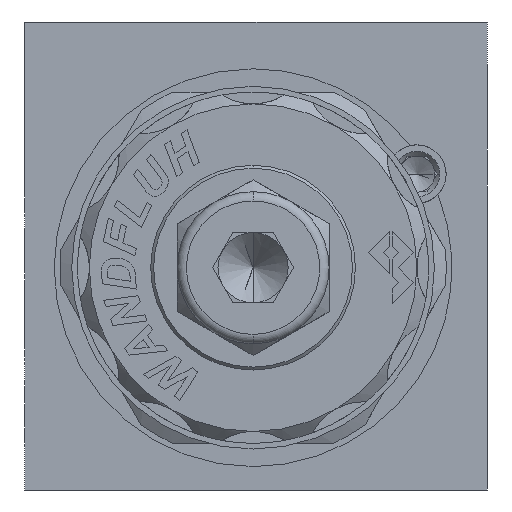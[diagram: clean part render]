
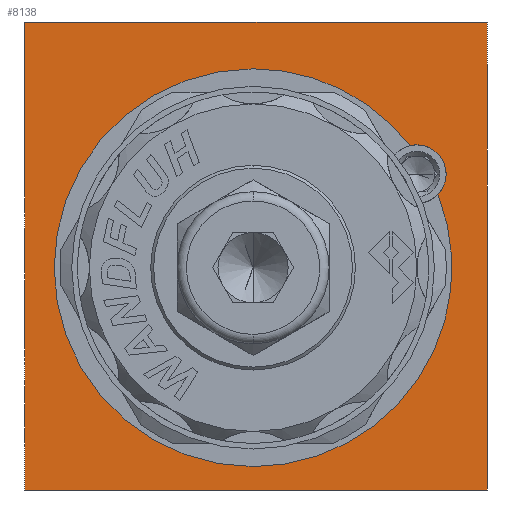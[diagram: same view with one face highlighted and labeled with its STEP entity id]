
A CAD part, left-side view. The second image highlights one B-rep face of the part: STEP entity #8138.
In plain terms, the highlighted planar face has unit normal (-1, 0, 0).
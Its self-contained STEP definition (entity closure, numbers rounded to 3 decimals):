
#165 = DIRECTION ( 'NONE',  ( 0., 0., 1. ) ) ;
#210 = CARTESIAN_POINT ( 'NONE',  ( 0., -19.75, 20. ) ) ;
#530 = VERTEX_POINT ( 'NONE', #8690 ) ;
#688 = DIRECTION ( 'NONE',  ( 0., 0., -1. ) ) ;
#831 = CARTESIAN_POINT ( 'NONE',  ( 0., 0.25, -1. ) ) ;
#1204 = DIRECTION ( 'NONE',  ( 0., 0., 1. ) ) ;
#1469 = DIRECTION ( 'NONE',  ( 0., 0., 1. ) ) ;
#1510 = DIRECTION ( 'NONE',  ( 0., 0., 1. ) ) ;
#1772 = DIRECTION ( 'NONE',  ( 0., -1., 0. ) ) ;
#2399 = DIRECTION ( 'NONE',  ( 0., 0., 1. ) ) ;
#3151 = CARTESIAN_POINT ( 'NONE',  ( 0., -19.75, -20. ) ) ;
#4251 = VECTOR ( 'NONE', #10168, 1000. ) ;
#4392 = CARTESIAN_POINT ( 'NONE',  ( 0., 19.75, -20. ) ) ;
#4436 = CARTESIAN_POINT ( 'NONE',  ( 0., -13.75, 9.5 ) ) ;
#4642 = CARTESIAN_POINT ( 'NONE',  ( 0., 19.75, 20. ) ) ;
#5287 = VECTOR ( 'NONE', #19400, 1000. ) ;
#5381 = AXIS2_PLACEMENT_3D ( 'NONE', #831, #11647, #2399 ) ;
#5915 = EDGE_CURVE ( 'NONE', #530, #19396, #20262, .T. ) ;
#6217 = VERTEX_POINT ( 'NONE', #10485 ) ;
#6728 = CARTESIAN_POINT ( 'NONE',  ( 0., 0.25, -18. ) ) ;
#6776 = VERTEX_POINT ( 'NONE', #17620 ) ;
#6793 = CARTESIAN_POINT ( 'NONE',  ( 0., -13.173, 9.432 ) ) ;
#7081 = EDGE_CURVE ( 'NONE', #6217, #19209, #9914, .T. ) ;
#7369 = VECTOR ( 'NONE', #1469, 1000. ) ;
#7601 = DIRECTION ( 'NONE',  ( -1., 0., 0. ) ) ;
#8138 = ADVANCED_FACE ( 'NONE', ( #11331, #19252 ), #12948, .F. ) ;
#8262 = AXIS2_PLACEMENT_3D ( 'NONE', #19915, #10433, #1204 ) ;
#8690 = CARTESIAN_POINT ( 'NONE',  ( 0., -19.75, 20. ) ) ;
#8857 = VERTEX_POINT ( 'NONE', #6728 ) ;
#9146 = VERTEX_POINT ( 'NONE', #6793 ) ;
#9382 = CIRCLE ( 'NONE', #5381, 17. ) ;
#9391 = DIRECTION ( 'NONE',  ( -1., 0., 0. ) ) ;
#9490 = EDGE_LOOP ( 'NONE', ( #12710, #12619, #12599, #12555, #12482 ) ) ;
#9543 = LINE ( 'NONE', #210, #13165 ) ;
#9748 = EDGE_CURVE ( 'NONE', #15249, #8857, #9382, .T. ) ;
#9914 = CIRCLE ( 'NONE', #18070, 2.5 ) ;
#9933 = DIRECTION ( 'NONE',  ( 1., 0., 0. ) ) ;
#10168 = DIRECTION ( 'NONE',  ( 0., 0., -1. ) ) ;
#10433 = DIRECTION ( 'NONE',  ( -1., 0., 0. ) ) ;
#10485 = CARTESIAN_POINT ( 'NONE',  ( 0., -15.552, 5.268 ) ) ;
#10754 = DIRECTION ( 'NONE',  ( -1., 0., 0. ) ) ;
#11224 = VERTEX_POINT ( 'NONE', #4642 ) ;
#11331 = FACE_OUTER_BOUND ( 'NONE', #19735, .T. ) ;
#11532 = CIRCLE ( 'NONE', #17361, 17. ) ;
#11582 = CIRCLE ( 'NONE', #15625, 2.5 ) ;
#11647 = DIRECTION ( 'NONE',  ( -1., 0., 0. ) ) ;
#12287 = CARTESIAN_POINT ( 'NONE',  ( 0., 0.25, 16. ) ) ;
#12482 = ORIENTED_EDGE ( 'NONE', *, *, #13580, .F. ) ;
#12555 = ORIENTED_EDGE ( 'NONE', *, *, #13308, .F. ) ;
#12599 = ORIENTED_EDGE ( 'NONE', *, *, #9748, .F. ) ;
#12619 = ORIENTED_EDGE ( 'NONE', *, *, #19191, .F. ) ;
#12710 = ORIENTED_EDGE ( 'NONE', *, *, #7081, .F. ) ;
#12732 = ORIENTED_EDGE ( 'NONE', *, *, #5915, .F. ) ;
#12787 = ORIENTED_EDGE ( 'NONE', *, *, #17636, .F. ) ;
#12948 = PLANE ( 'NONE',  #18525 ) ;
#12962 = ORIENTED_EDGE ( 'NONE', *, *, #13549, .F. ) ;
#13000 = ORIENTED_EDGE ( 'NONE', *, *, #19465, .F. ) ;
#13165 = VECTOR ( 'NONE', #1772, 1000. ) ;
#13308 = EDGE_CURVE ( 'NONE', #9146, #15249, #18263, .T. ) ;
#13549 = EDGE_CURVE ( 'NONE', #6776, #11224, #15739, .T. ) ;
#13580 = EDGE_CURVE ( 'NONE', #19209, #9146, #11582, .T. ) ;
#15249 = VERTEX_POINT ( 'NONE', #12287 ) ;
#15625 = AXIS2_PLACEMENT_3D ( 'NONE', #17059, #7601, #18662 ) ;
#15739 = LINE ( 'NONE', #4392, #7369 ) ;
#16267 = CARTESIAN_POINT ( 'NONE',  ( 0., -19.75, -20. ) ) ;
#17059 = CARTESIAN_POINT ( 'NONE',  ( 0., -13.75, 7. ) ) ;
#17361 = AXIS2_PLACEMENT_3D ( 'NONE', #20214, #10754, #1510 ) ;
#17620 = CARTESIAN_POINT ( 'NONE',  ( 0., 19.75, -20. ) ) ;
#17636 = EDGE_CURVE ( 'NONE', #19396, #6776, #17863, .T. ) ;
#17863 = LINE ( 'NONE', #16267, #5287 ) ;
#18053 = CARTESIAN_POINT ( 'NONE',  ( 0., -19.75, -20. ) ) ;
#18070 = AXIS2_PLACEMENT_3D ( 'NONE', #18863, #9391, #165 ) ;
#18263 = CIRCLE ( 'NONE', #8262, 17. ) ;
#18525 = AXIS2_PLACEMENT_3D ( 'NONE', #19407, #9933, #688 ) ;
#18662 = DIRECTION ( 'NONE',  ( 0., 0., 1. ) ) ;
#18863 = CARTESIAN_POINT ( 'NONE',  ( 0., -13.75, 7. ) ) ;
#19191 = EDGE_CURVE ( 'NONE', #8857, #6217, #11532, .T. ) ;
#19209 = VERTEX_POINT ( 'NONE', #4436 ) ;
#19252 = FACE_BOUND ( 'NONE', #9490, .T. ) ;
#19396 = VERTEX_POINT ( 'NONE', #3151 ) ;
#19400 = DIRECTION ( 'NONE',  ( 0., 1., 0. ) ) ;
#19407 = CARTESIAN_POINT ( 'NONE',  ( 0., 19.75, 20. ) ) ;
#19465 = EDGE_CURVE ( 'NONE', #11224, #530, #9543, .T. ) ;
#19735 = EDGE_LOOP ( 'NONE', ( #13000, #12962, #12787, #12732 ) ) ;
#19915 = CARTESIAN_POINT ( 'NONE',  ( 0., 0.25, -1. ) ) ;
#20214 = CARTESIAN_POINT ( 'NONE',  ( 0., 0.25, -1. ) ) ;
#20262 = LINE ( 'NONE', #18053, #4251 ) ;
